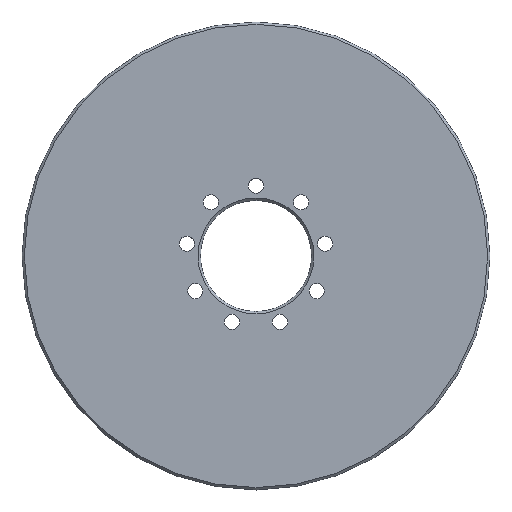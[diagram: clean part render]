
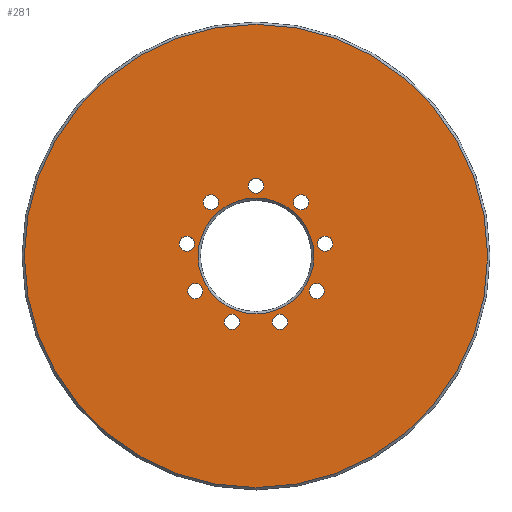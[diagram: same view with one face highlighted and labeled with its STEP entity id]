
A CAD part, top view. The second image highlights one B-rep face of the part: STEP entity #281.
In plain terms, the highlighted planar face has unit normal (0, 0, 1).
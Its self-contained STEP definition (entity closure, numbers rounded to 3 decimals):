
#16=PLANE('',#325);
#45=FACE_BOUND('',#113,.T.);
#46=FACE_BOUND('',#114,.T.);
#47=FACE_BOUND('',#115,.T.);
#48=FACE_BOUND('',#116,.T.);
#49=FACE_BOUND('',#117,.T.);
#50=FACE_BOUND('',#118,.T.);
#51=FACE_BOUND('',#119,.T.);
#52=FACE_BOUND('',#120,.T.);
#53=FACE_BOUND('',#121,.T.);
#54=FACE_BOUND('',#122,.T.);
#71=FACE_OUTER_BOUND('',#112,.T.);
#112=EDGE_LOOP('',(#242));
#113=EDGE_LOOP('',(#243));
#114=EDGE_LOOP('',(#244));
#115=EDGE_LOOP('',(#245));
#116=EDGE_LOOP('',(#246));
#117=EDGE_LOOP('',(#247));
#118=EDGE_LOOP('',(#248));
#119=EDGE_LOOP('',(#249));
#120=EDGE_LOOP('',(#250));
#121=EDGE_LOOP('',(#251));
#122=EDGE_LOOP('',(#252));
#126=CIRCLE('',#287,6.5);
#128=CIRCLE('',#290,6.5);
#130=CIRCLE('',#293,6.5);
#132=CIRCLE('',#296,6.5);
#134=CIRCLE('',#299,6.5);
#136=CIRCLE('',#302,6.5);
#138=CIRCLE('',#305,6.5);
#140=CIRCLE('',#308,6.5);
#142=CIRCLE('',#311,6.5);
#149=CIRCLE('',#324,49.5);
#150=CIRCLE('',#326,198.);
#152=VERTEX_POINT('',#420);
#154=VERTEX_POINT('',#425);
#156=VERTEX_POINT('',#430);
#158=VERTEX_POINT('',#435);
#160=VERTEX_POINT('',#440);
#162=VERTEX_POINT('',#445);
#164=VERTEX_POINT('',#450);
#166=VERTEX_POINT('',#455);
#168=VERTEX_POINT('',#460);
#175=VERTEX_POINT('',#480);
#176=VERTEX_POINT('',#483);
#178=EDGE_CURVE('',#152,#152,#126,.T.);
#180=EDGE_CURVE('',#154,#154,#128,.T.);
#182=EDGE_CURVE('',#156,#156,#130,.T.);
#184=EDGE_CURVE('',#158,#158,#132,.T.);
#186=EDGE_CURVE('',#160,#160,#134,.T.);
#188=EDGE_CURVE('',#162,#162,#136,.T.);
#190=EDGE_CURVE('',#164,#164,#138,.T.);
#192=EDGE_CURVE('',#166,#166,#140,.T.);
#194=EDGE_CURVE('',#168,#168,#142,.T.);
#201=EDGE_CURVE('',#175,#175,#149,.T.);
#202=EDGE_CURVE('',#176,#176,#150,.T.);
#242=ORIENTED_EDGE('',*,*,#202,.F.);
#243=ORIENTED_EDGE('',*,*,#178,.T.);
#244=ORIENTED_EDGE('',*,*,#180,.T.);
#245=ORIENTED_EDGE('',*,*,#182,.T.);
#246=ORIENTED_EDGE('',*,*,#184,.T.);
#247=ORIENTED_EDGE('',*,*,#186,.T.);
#248=ORIENTED_EDGE('',*,*,#188,.T.);
#249=ORIENTED_EDGE('',*,*,#190,.T.);
#250=ORIENTED_EDGE('',*,*,#192,.T.);
#251=ORIENTED_EDGE('',*,*,#194,.T.);
#252=ORIENTED_EDGE('',*,*,#201,.F.);
#281=ADVANCED_FACE('',(#71,#45,#46,#47,#48,#49,#50,#51,#52,#53,#54),#16,
 .F.);
#287=AXIS2_PLACEMENT_3D('',#421,#334,#335);
#290=AXIS2_PLACEMENT_3D('',#426,#340,#341);
#293=AXIS2_PLACEMENT_3D('',#431,#346,#347);
#296=AXIS2_PLACEMENT_3D('',#436,#352,#353);
#299=AXIS2_PLACEMENT_3D('',#441,#358,#359);
#302=AXIS2_PLACEMENT_3D('',#446,#364,#365);
#305=AXIS2_PLACEMENT_3D('',#451,#370,#371);
#308=AXIS2_PLACEMENT_3D('',#456,#376,#377);
#311=AXIS2_PLACEMENT_3D('',#461,#382,#383);
#324=AXIS2_PLACEMENT_3D('',#481,#408,#409);
#325=AXIS2_PLACEMENT_3D('',#482,#410,#411);
#326=AXIS2_PLACEMENT_3D('',#484,#412,#413);
#334=DIRECTION('center_axis',(0.,0.,-1.));
#335=DIRECTION('ref_axis',(0.766,-0.643,0.));
#340=DIRECTION('center_axis',(0.,0.,-1.));
#341=DIRECTION('ref_axis',(0.174,-0.985,0.));
#346=DIRECTION('center_axis',(0.,0.,-1.));
#347=DIRECTION('ref_axis',(-0.5,-0.866,0.));
#352=DIRECTION('center_axis',(0.,0.,-1.));
#353=DIRECTION('ref_axis',(-0.94,-0.342,0.));
#358=DIRECTION('center_axis',(0.,0.,-1.));
#359=DIRECTION('ref_axis',(-0.94,0.342,0.));
#364=DIRECTION('center_axis',(0.,0.,-1.));
#365=DIRECTION('ref_axis',(-0.5,0.866,0.));
#370=DIRECTION('center_axis',(0.,0.,-1.));
#371=DIRECTION('ref_axis',(0.174,0.985,0.));
#376=DIRECTION('center_axis',(0.,0.,-1.));
#377=DIRECTION('ref_axis',(0.766,0.643,0.));
#382=DIRECTION('center_axis',(0.,0.,-1.));
#383=DIRECTION('ref_axis',(1.,0.,0.));
#408=DIRECTION('center_axis',(0.,0.,1.));
#409=DIRECTION('ref_axis',(-1.,0.,0.));
#410=DIRECTION('center_axis',(0.,0.,-1.));
#411=DIRECTION('ref_axis',(-1.,0.,0.));
#412=DIRECTION('center_axis',(0.,0.,-1.));
#413=DIRECTION('ref_axis',(-1.,0.,0.));
#420=CARTESIAN_POINT('',(43.547,41.785,15.));
#421=CARTESIAN_POINT('Origin',(38.567,45.963,15.));
#425=CARTESIAN_POINT('',(60.217,4.018,15.));
#426=CARTESIAN_POINT('Origin',(59.088,10.419,15.));
#430=CARTESIAN_POINT('',(48.712,-35.629,15.));
#431=CARTESIAN_POINT('Origin',(51.962,-30.,15.));
#435=CARTESIAN_POINT('',(14.413,-58.605,15.));
#436=CARTESIAN_POINT('Origin',(20.521,-56.382,15.));
#440=CARTESIAN_POINT('',(-26.629,-54.158,15.));
#441=CARTESIAN_POINT('Origin',(-20.521,-56.382,15.));
#445=CARTESIAN_POINT('',(-55.212,-24.371,15.));
#446=CARTESIAN_POINT('Origin',(-51.962,-30.,15.));
#450=CARTESIAN_POINT('',(-57.96,16.82,15.));
#451=CARTESIAN_POINT('Origin',(-59.088,10.419,15.));
#455=CARTESIAN_POINT('',(-33.588,50.141,15.));
#456=CARTESIAN_POINT('Origin',(-38.567,45.963,15.));
#460=CARTESIAN_POINT('',(6.5,60.,15.));
#461=CARTESIAN_POINT('Origin',(0.,60.,15.));
#480=CARTESIAN_POINT('',(49.5,0.,15.));
#481=CARTESIAN_POINT('Origin',(0.,0.,15.));
#482=CARTESIAN_POINT('Origin',(-257.26,0.,15.));
#483=CARTESIAN_POINT('',(198.,0.,15.));
#484=CARTESIAN_POINT('Origin',(0.,0.,15.));
